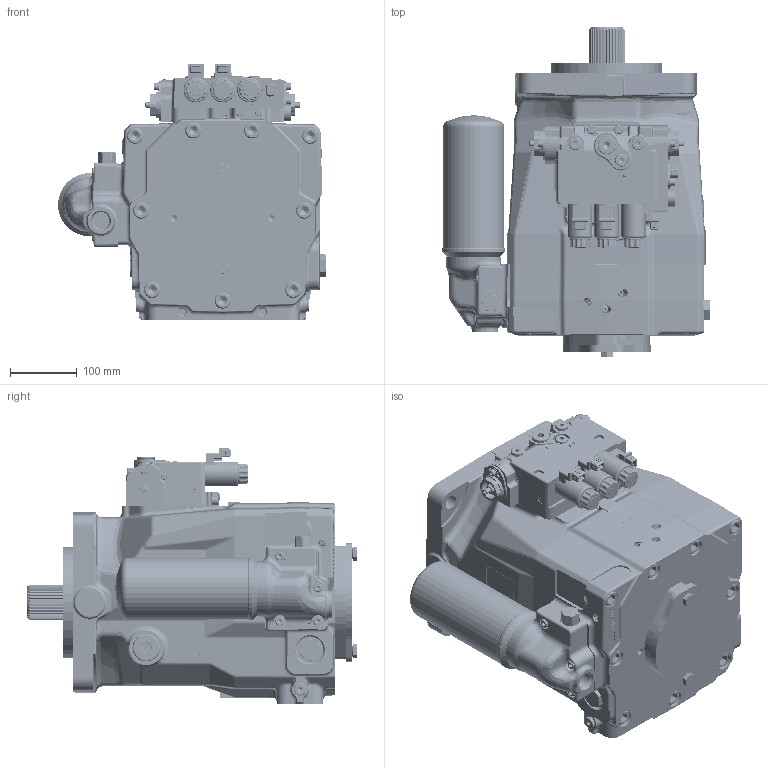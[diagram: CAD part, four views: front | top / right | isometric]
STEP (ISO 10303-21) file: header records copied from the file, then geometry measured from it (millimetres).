
FILE_DESCRIPTION(/* description */ (''),/* implementation_level */ '2;1');
FILE_NAME(/* name */ '2228055001m355.stp',/* time_stamp */ '2012-03-30T13:19:54+02:00',/* author */ (''),/* organization */ (''),/* preprocessor_version */ 'ST-DEVELOPER v11',/* originating_system */ 'SIEMENS PLM Software NX 7.5',/* authorisation */ '');
FILE_SCHEMA (('AUTOMOTIVE_DESIGN { 1 0 10303 214 1 1 1 1 }'));
Products named in the file (1): 2228055001m355
Bounding box: 400.6 x 494.27 x 382 mm (x, y, z)
Volume: 32660004.4 mm3; surface area: 1363674.1 mm2
Topology: 13 solids, 23 shells, 5206 faces, 12476 edges, 7468 vertices
Faces by surface type: plane 1520, cylinder 1476, bspline 929, cone 456, torus 426, extrusion 179, revolution 120, sphere 100
Full cylindrical faces by diameter (mm): 3.5 x3, 4 x2, 5 x4, 6 x10, 6.4 x3, 6.8 x6, 8 x10, 8.5 x8, 9.9 x14, 10 x3, 10.2 x9, 10.579 x1, 10.7 x4, 11 x11, 11.001 x3, 11.7 x2, 12 x3, 12.25 x5, 12.5 x5, 12.8 x4, 13 x8, 13.5 x2, 14 x31, 14.001 x1, 14.514 x1, 15 x2, 16 x9, 17 x3, 17.5 x9, 18 x8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
Entity records: 169814 total; most frequent: CARTESIAN_POINT 59059, ORIENTED_EDGE 23072, DIRECTION 22093, EDGE_CURVE 11536, AXIS2_PLACEMENT_3D 8914, VERTEX_POINT 7214, EDGE_LOOP 6053, ADVANCED_FACE 5206
